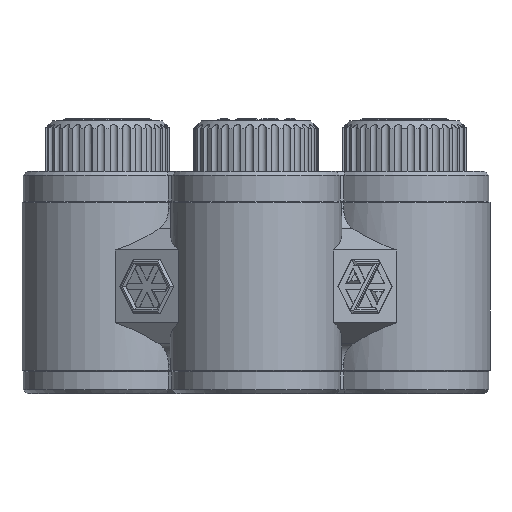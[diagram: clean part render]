
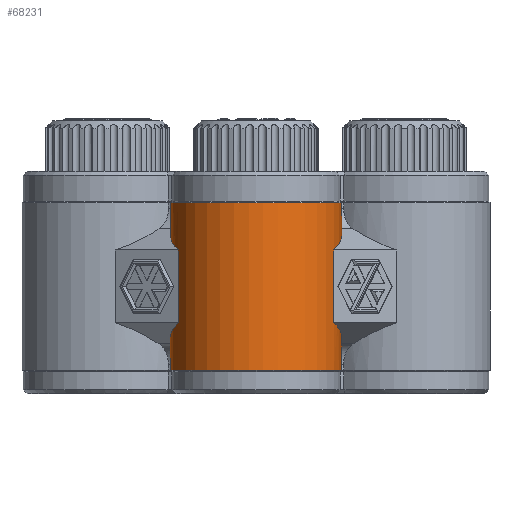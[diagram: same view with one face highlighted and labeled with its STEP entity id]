
A CAD part, left-side view. The second image highlights one B-rep face of the part: STEP entity #68231.
In plain terms, the highlighted cylindrical face has radius 22 mm (diameter 44 mm), a partial arc.
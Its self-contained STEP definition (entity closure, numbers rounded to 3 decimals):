
#42=ELLIPSE('',#74042,25.403,22.);
#44=ELLIPSE('',#74045,25.403,22.);
#49=ELLIPSE('',#74054,25.403,22.);
#50=ELLIPSE('',#74056,25.403,22.);
#3987=CYLINDRICAL_SURFACE('',#74052,22.);
#7390=FACE_OUTER_BOUND('',#11534,.T.);
#11534=EDGE_LOOP('',(#61858,#61859,#61860,#61861,#61862,#61863,#61864,#61865,
#61866,#61867,#61868,#61869,#61870,#61871,#61872,#61873));
#17579=LINE('',#121174,#24085);
#17599=LINE('',#121220,#24105);
#17616=LINE('',#121306,#24122);
#17617=LINE('',#121316,#24123);
#17618=LINE('',#121330,#24124);
#17619=LINE('',#121340,#24125);
#24085=VECTOR('',#90595,10.);
#24105=VECTOR('',#90627,10.);
#24122=VECTOR('',#90696,10.);
#24123=VECTOR('',#90697,10.);
#24124=VECTOR('',#90702,10.);
#24125=VECTOR('',#90703,10.);
#26997=CIRCLE('',#74053,22.);
#26998=CIRCLE('',#74055,22.);
#28072=B_SPLINE_CURVE_WITH_KNOTS('',3,(#121295,#121296,#121297,#121298,
#121299,#121300,#121301,#121302),.UNSPECIFIED.,.F.,.F.,(4,2,2,4),(-0.617,
-0.457,-0.228,0.),.UNSPECIFIED.);
#28073=B_SPLINE_CURVE_WITH_KNOTS('',3,(#121307,#121308,#121309,#121310,
#121311,#121312,#121313,#121314),.UNSPECIFIED.,.F.,.F.,(4,2,2,4),(0.,0.228,
0.457,0.617),.UNSPECIFIED.);
#28074=B_SPLINE_CURVE_WITH_KNOTS('',3,(#121319,#121320,#121321,#121322,
#121323,#121324,#121325,#121326),.UNSPECIFIED.,.F.,.F.,(4,2,2,4),(1.4,
1.569,1.793,2.017),.UNSPECIFIED.);
#28075=B_SPLINE_CURVE_WITH_KNOTS('',3,(#121331,#121332,#121333,#121334,
#121335,#121336,#121337,#121338),.UNSPECIFIED.,.F.,.F.,(4,2,2,4),(-2.017,
-1.788,-1.56,-1.4),.UNSPECIFIED.);
#33910=VERTEX_POINT('',#121168);
#33912=VERTEX_POINT('',#121172);
#33930=VERTEX_POINT('',#121214);
#33932=VERTEX_POINT('',#121218);
#33950=VERTEX_POINT('',#121259);
#33952=VERTEX_POINT('',#121263);
#33954=VERTEX_POINT('',#121268);
#33956=VERTEX_POINT('',#121272);
#33965=VERTEX_POINT('',#121294);
#33966=VERTEX_POINT('',#121303);
#33967=VERTEX_POINT('',#121305);
#33968=VERTEX_POINT('',#121315);
#33969=VERTEX_POINT('',#121317);
#33970=VERTEX_POINT('',#121327);
#33971=VERTEX_POINT('',#121329);
#33972=VERTEX_POINT('',#121339);
#43361=EDGE_CURVE('',#33912,#33910,#17579,.T.);
#43381=EDGE_CURVE('',#33932,#33930,#17599,.T.);
#43401=EDGE_CURVE('',#33952,#33950,#42,.F.);
#43405=EDGE_CURVE('',#33956,#33954,#44,.F.);
#43414=EDGE_CURVE('',#33965,#33930,#28072,.T.);
#43415=EDGE_CURVE('',#33932,#33966,#26997,.T.);
#43416=EDGE_CURVE('',#33966,#33967,#17616,.T.);
#43417=EDGE_CURVE('',#33967,#33950,#28073,.T.);
#43418=EDGE_CURVE('',#33968,#33952,#17617,.T.);
#43419=EDGE_CURVE('',#33969,#33968,#49,.F.);
#43420=EDGE_CURVE('',#33969,#33910,#28074,.T.);
#43421=EDGE_CURVE('',#33912,#33970,#26998,.T.);
#43422=EDGE_CURVE('',#33970,#33971,#17618,.T.);
#43423=EDGE_CURVE('',#33971,#33954,#28075,.T.);
#43424=EDGE_CURVE('',#33956,#33972,#17619,.T.);
#43425=EDGE_CURVE('',#33965,#33972,#50,.F.);
#61858=ORIENTED_EDGE('',*,*,#43414,.T.);
#61859=ORIENTED_EDGE('',*,*,#43381,.F.);
#61860=ORIENTED_EDGE('',*,*,#43415,.T.);
#61861=ORIENTED_EDGE('',*,*,#43416,.T.);
#61862=ORIENTED_EDGE('',*,*,#43417,.T.);
#61863=ORIENTED_EDGE('',*,*,#43401,.F.);
#61864=ORIENTED_EDGE('',*,*,#43418,.F.);
#61865=ORIENTED_EDGE('',*,*,#43419,.F.);
#61866=ORIENTED_EDGE('',*,*,#43420,.T.);
#61867=ORIENTED_EDGE('',*,*,#43361,.F.);
#61868=ORIENTED_EDGE('',*,*,#43421,.T.);
#61869=ORIENTED_EDGE('',*,*,#43422,.T.);
#61870=ORIENTED_EDGE('',*,*,#43423,.T.);
#61871=ORIENTED_EDGE('',*,*,#43405,.F.);
#61872=ORIENTED_EDGE('',*,*,#43424,.T.);
#61873=ORIENTED_EDGE('',*,*,#43425,.F.);
#68231=ADVANCED_FACE('',(#7390),#3987,.T.);
#74042=AXIS2_PLACEMENT_3D('',#121265,#90666,#90667);
#74045=AXIS2_PLACEMENT_3D('',#121274,#90674,#90675);
#74052=AXIS2_PLACEMENT_3D('',#121293,#90692,#90693);
#74053=AXIS2_PLACEMENT_3D('',#121304,#90694,#90695);
#74054=AXIS2_PLACEMENT_3D('',#121318,#90698,#90699);
#74055=AXIS2_PLACEMENT_3D('',#121328,#90700,#90701);
#74056=AXIS2_PLACEMENT_3D('',#121341,#90704,#90705);
#90595=DIRECTION('',(0.,0.,1.));
#90627=DIRECTION('',(0.,0.,-1.));
#90666=DIRECTION('center_axis',(-0.433,0.25,0.866));
#90667=DIRECTION('ref_axis',(0.75,-0.433,0.5));
#90674=DIRECTION('center_axis',(-0.433,-0.25,-0.866));
#90675=DIRECTION('ref_axis',(0.75,0.433,-0.5));
#90692=DIRECTION('center_axis',(0.,0.,1.));
#90693=DIRECTION('ref_axis',(-1.,0.,0.));
#90694=DIRECTION('center_axis',(0.,0.,-1.));
#90695=DIRECTION('ref_axis',(1.,0.,0.));
#90696=DIRECTION('',(0.,0.,-1.));
#90697=DIRECTION('',(0.,0.,1.));
#90698=DIRECTION('center_axis',(-0.433,0.25,-0.866));
#90699=DIRECTION('ref_axis',(0.75,-0.433,-0.5));
#90700=DIRECTION('center_axis',(0.,0.,1.));
#90701=DIRECTION('ref_axis',(1.,0.,0.));
#90702=DIRECTION('',(0.,0.,1.));
#90703=DIRECTION('',(0.,0.,1.));
#90704=DIRECTION('center_axis',(-0.433,-0.25,0.866));
#90705=DIRECTION('ref_axis',(0.75,0.433,0.5));
#121168=CARTESIAN_POINT('',(-38.212,21.225,7.536));
#121172=CARTESIAN_POINT('',(-38.212,21.225,6.));
#121174=CARTESIAN_POINT('',(-38.212,21.225,0.));
#121214=CARTESIAN_POINT('',(-38.212,-21.225,47.464));
#121218=CARTESIAN_POINT('',(-38.212,-21.225,49.));
#121220=CARTESIAN_POINT('',(-38.212,-21.225,55.));
#121259=CARTESIAN_POINT('',(-41.323,21.837,42.268));
#121263=CARTESIAN_POINT('',(-53.264,19.954,36.841));
#121265=CARTESIAN_POINT('Origin',(-44.,0.,
47.233));
#121268=CARTESIAN_POINT('',(-41.323,-21.837,12.732));
#121272=CARTESIAN_POINT('',(-53.264,-19.954,18.159));
#121274=CARTESIAN_POINT('Origin',(-44.,0.,
7.767));
#121293=CARTESIAN_POINT('Origin',(-44.,0.,
0.));
#121294=CARTESIAN_POINT('',(-41.323,-21.837,42.268));
#121295=CARTESIAN_POINT('Ctrl Pts',(-41.323,-21.837,
42.268));
#121296=CARTESIAN_POINT('Ctrl Pts',(-40.832,-21.776,
42.531));
#121297=CARTESIAN_POINT('Ctrl Pts',(-40.386,-21.705,
42.857));
#121298=CARTESIAN_POINT('Ctrl Pts',(-39.46,-21.534,
43.744));
#121299=CARTESIAN_POINT('Ctrl Pts',(-38.988,-21.424,
44.413));
#121300=CARTESIAN_POINT('Ctrl Pts',(-38.365,-21.269,
45.893));
#121301=CARTESIAN_POINT('Ctrl Pts',(-38.212,-21.225,
46.702));
#121302=CARTESIAN_POINT('Ctrl Pts',(-38.212,-21.225,
47.464));
#121303=CARTESIAN_POINT('',(-38.212,21.225,49.));
#121304=CARTESIAN_POINT('Origin',(-44.,0.,
49.));
#121305=CARTESIAN_POINT('',(-38.212,21.225,47.464));
#121306=CARTESIAN_POINT('',(-38.212,21.225,55.));
#121307=CARTESIAN_POINT('Ctrl Pts',(-38.212,21.225,47.464));
#121308=CARTESIAN_POINT('Ctrl Pts',(-38.212,21.225,46.702));
#121309=CARTESIAN_POINT('Ctrl Pts',(-38.365,21.269,45.893));
#121310=CARTESIAN_POINT('Ctrl Pts',(-38.988,21.424,
44.413));
#121311=CARTESIAN_POINT('Ctrl Pts',(-39.46,21.534,
43.744));
#121312=CARTESIAN_POINT('Ctrl Pts',(-40.386,21.705,
42.857));
#121313=CARTESIAN_POINT('Ctrl Pts',(-40.832,21.776,
42.531));
#121314=CARTESIAN_POINT('Ctrl Pts',(-41.323,21.837,
42.268));
#121315=CARTESIAN_POINT('',(-53.264,19.954,18.159));
#121316=CARTESIAN_POINT('',(-53.264,19.954,0.));
#121317=CARTESIAN_POINT('',(-41.323,21.837,12.732));
#121318=CARTESIAN_POINT('Origin',(-44.,0.,
7.767));
#121319=CARTESIAN_POINT('Ctrl Pts',(-41.323,21.837,
12.732));
#121320=CARTESIAN_POINT('Ctrl Pts',(-40.806,21.773,
12.455));
#121321=CARTESIAN_POINT('Ctrl Pts',(-40.337,21.697,12.108));
#121322=CARTESIAN_POINT('Ctrl Pts',(-39.415,21.524,
11.197));
#121323=CARTESIAN_POINT('Ctrl Pts',(-38.96,21.417,
10.535));
#121324=CARTESIAN_POINT('Ctrl Pts',(-38.359,21.267,
9.078));
#121325=CARTESIAN_POINT('Ctrl Pts',(-38.212,21.225,8.283));
#121326=CARTESIAN_POINT('Ctrl Pts',(-38.212,21.225,7.536));
#121327=CARTESIAN_POINT('',(-38.212,-21.225,6.));
#121328=CARTESIAN_POINT('Origin',(-44.,0.,
6.));
#121329=CARTESIAN_POINT('',(-38.212,-21.225,7.536));
#121330=CARTESIAN_POINT('',(-38.212,-21.225,0.));
#121331=CARTESIAN_POINT('Ctrl Pts',(-38.212,-21.225,
7.536));
#121332=CARTESIAN_POINT('Ctrl Pts',(-38.212,-21.225,
8.298));
#121333=CARTESIAN_POINT('Ctrl Pts',(-38.365,-21.269,
9.107));
#121334=CARTESIAN_POINT('Ctrl Pts',(-38.988,-21.424,
10.587));
#121335=CARTESIAN_POINT('Ctrl Pts',(-39.46,-21.534,
11.256));
#121336=CARTESIAN_POINT('Ctrl Pts',(-40.386,-21.705,
12.143));
#121337=CARTESIAN_POINT('Ctrl Pts',(-40.832,-21.776,
12.469));
#121338=CARTESIAN_POINT('Ctrl Pts',(-41.323,-21.837,
12.732));
#121339=CARTESIAN_POINT('',(-53.264,-19.954,36.841));
#121340=CARTESIAN_POINT('',(-53.264,-19.954,0.));
#121341=CARTESIAN_POINT('Origin',(-44.,0.,
47.233));
